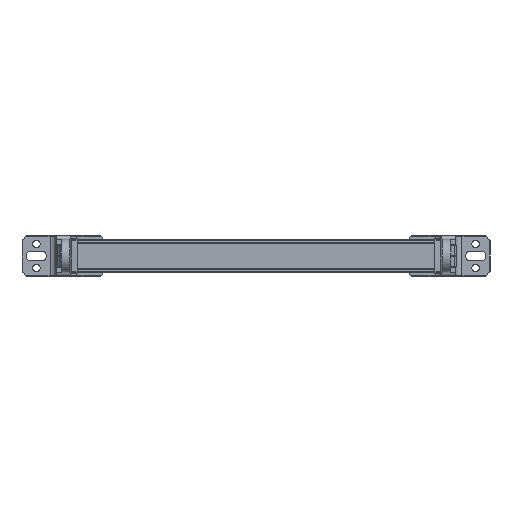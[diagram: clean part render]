
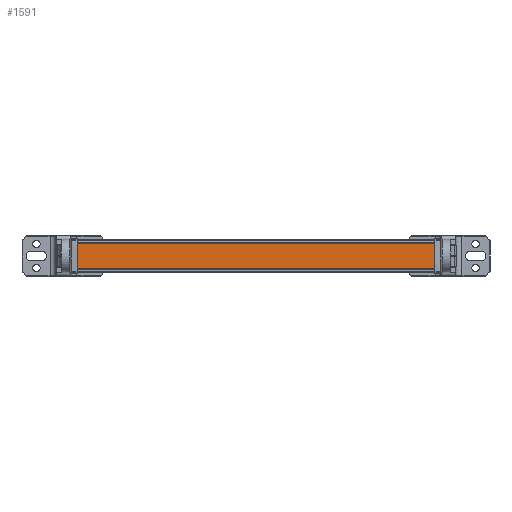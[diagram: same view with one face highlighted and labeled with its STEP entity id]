
A CAD part, front view. The second image highlights one B-rep face of the part: STEP entity #1591.
In plain terms, the highlighted planar face has unit normal (0, -1, 0) as drawn and (0, 1, 0) by its records, which use the part's own axes.
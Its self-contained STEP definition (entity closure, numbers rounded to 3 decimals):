
#1535=CARTESIAN_POINT('',(-10.5,16.7,-152.0));
#1536=VERTEX_POINT('',#1535);
#1544=CARTESIAN_POINT('',(-10.5,16.7,150.0));
#1545=VERTEX_POINT('',#1544);
#1552=CARTESIAN_POINT('',(-10.5,16.7,150.0));
#1553=DIRECTION('',(0.0,0.0,-1.0));
#1554=VECTOR('',#1553,302.0);
#1555=LINE('',#1552,#1554);
#1556=EDGE_CURVE('',#1545,#1536,#1555,.T.);
#1561=CARTESIAN_POINT('',(10.5,16.7,0.0));
#1562=DIRECTION('',(0.0,1.0,0.0));
#1563=DIRECTION('',(0.0,0.0,1.0));
#1564=AXIS2_PLACEMENT_3D('',#1561,#1562,#1563);
#1565=PLANE('',#1564);
#1566=CARTESIAN_POINT('',(10.5,16.7,-152.0));
#1567=VERTEX_POINT('',#1566);
#1568=CARTESIAN_POINT('',(10.5,16.7,-152.0));
#1569=DIRECTION('',(-1.0,0.0,0.0));
#1570=VECTOR('',#1569,21.0);
#1571=LINE('',#1568,#1570);
#1572=EDGE_CURVE('',#1567,#1536,#1571,.T.);
#1573=ORIENTED_EDGE('',*,*,#1572,.T.);
#1574=ORIENTED_EDGE('',*,*,#1556,.F.);
#1575=CARTESIAN_POINT('',(10.5,16.7,150.0));
#1576=VERTEX_POINT('',#1575);
#1577=CARTESIAN_POINT('',(-10.5,16.7,150.0));
#1578=DIRECTION('',(1.0,0.0,0.0));
#1579=VECTOR('',#1578,21.0);
#1580=LINE('',#1577,#1579);
#1581=EDGE_CURVE('',#1545,#1576,#1580,.T.);
#1582=ORIENTED_EDGE('',*,*,#1581,.T.);
#1583=CARTESIAN_POINT('',(10.5,16.7,150.0));
#1584=DIRECTION('',(0.0,0.0,-1.0));
#1585=VECTOR('',#1584,302.0);
#1586=LINE('',#1583,#1585);
#1587=EDGE_CURVE('',#1576,#1567,#1586,.T.);
#1588=ORIENTED_EDGE('',*,*,#1587,.T.);
#1589=EDGE_LOOP('',(#1573,#1574,#1582,#1588));
#1590=FACE_OUTER_BOUND('',#1589,.T.);
#1591=ADVANCED_FACE('',(#1590),#1565,.T.);
